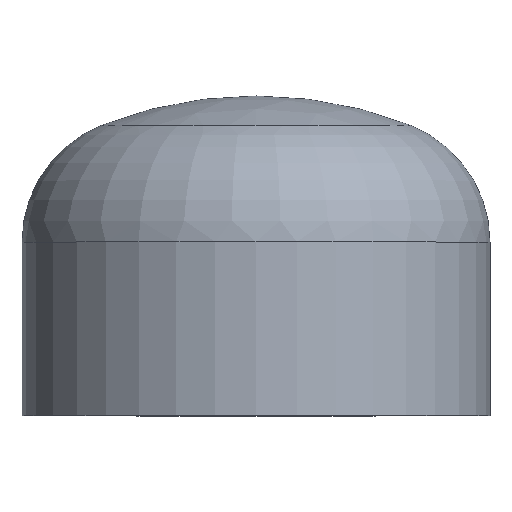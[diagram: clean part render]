
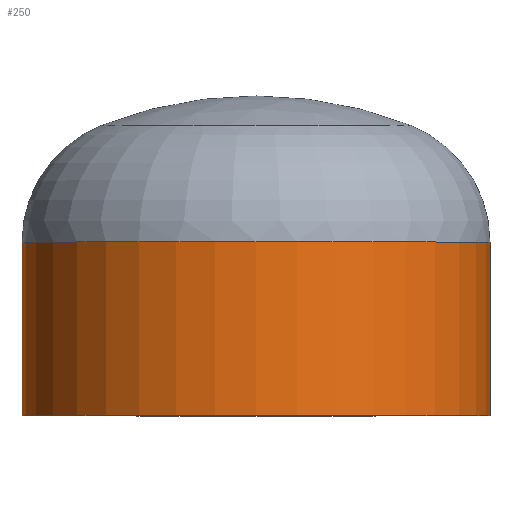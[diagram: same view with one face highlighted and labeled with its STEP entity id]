
A CAD part, top view. The second image highlights one B-rep face of the part: STEP entity #250.
In plain terms, the highlighted cylindrical face has radius 161.95 mm (diameter 323.9 mm), a partial arc.
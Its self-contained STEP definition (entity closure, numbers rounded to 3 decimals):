
#1 = EDGE_LOOP ( 'NONE', ( #37, #35, #142, #144 ) ) ;
#8 = AXIS2_PLACEMENT_3D ( 'NONE', #400, #43, #58 ) ;
#24 = VERTEX_POINT ( 'NONE', #279 ) ;
#35 = ORIENTED_EDGE ( 'NONE', *, *, #342, .T. ) ;
#37 = ORIENTED_EDGE ( 'NONE', *, *, #80, .T. ) ;
#42 = CARTESIAN_POINT ( 'NONE',  ( 161.95, 120., 0. ) ) ;
#43 = DIRECTION ( 'NONE',  ( 0., -1., 0. ) ) ;
#53 = VERTEX_POINT ( 'NONE', #372 ) ;
#58 = DIRECTION ( 'NONE',  ( 1., 0., 0. ) ) ;
#60 = AXIS2_PLACEMENT_3D ( 'NONE', #183, #185, #351 ) ;
#80 = EDGE_CURVE ( 'NONE', #211, #53, #387, .T. ) ;
#101 = VERTEX_POINT ( 'NONE', #291 ) ;
#109 = LINE ( 'NONE', #308, #382 ) ;
#129 = CARTESIAN_POINT ( 'NONE',  ( -161.95, 0., 0. ) ) ;
#131 = CARTESIAN_POINT ( 'NONE',  ( 0., 0., 0. ) ) ;
#142 = ORIENTED_EDGE ( 'NONE', *, *, #340, .F. ) ;
#144 = ORIENTED_EDGE ( 'NONE', *, *, #356, .F. ) ;
#151 = CIRCLE ( 'NONE', #270, 161.95 ) ;
#167 = FACE_OUTER_BOUND ( 'NONE', #1, .T. ) ;
#170 = DIRECTION ( 'NONE',  ( 0., -1., 0. ) ) ;
#183 = CARTESIAN_POINT ( 'NONE',  ( 0., 120., 0. ) ) ;
#185 = DIRECTION ( 'NONE',  ( 0., -1., 0. ) ) ;
#195 = DIRECTION ( 'NONE',  ( 1., 0., 0. ) ) ;
#208 = LINE ( 'NONE', #129, #324 ) ;
#211 = VERTEX_POINT ( 'NONE', #42 ) ;
#250 = ADVANCED_FACE ( 'NONE', ( #167 ), #348, .T. ) ;
#270 = AXIS2_PLACEMENT_3D ( 'NONE', #131, #388, #195 ) ;
#279 = CARTESIAN_POINT ( 'NONE',  ( -161.95, 0., 0. ) ) ;
#281 = DIRECTION ( 'NONE',  ( 0., -1., 0. ) ) ;
#291 = CARTESIAN_POINT ( 'NONE',  ( 161.95, 0., 0. ) ) ;
#308 = CARTESIAN_POINT ( 'NONE',  ( 161.95, 0., 0. ) ) ;
#324 = VECTOR ( 'NONE', #281, 1000. ) ;
#340 = EDGE_CURVE ( 'NONE', #101, #24, #151, .T. ) ;
#342 = EDGE_CURVE ( 'NONE', #53, #24, #208, .T. ) ;
#348 = CYLINDRICAL_SURFACE ( 'NONE', #8, 161.95 ) ;
#351 = DIRECTION ( 'NONE',  ( 1., 0., 0. ) ) ;
#356 = EDGE_CURVE ( 'NONE', #211, #101, #109, .T. ) ;
#372 = CARTESIAN_POINT ( 'NONE',  ( -161.95, 120., 0. ) ) ;
#382 = VECTOR ( 'NONE', #170, 1000. ) ;
#387 = CIRCLE ( 'NONE', #60, 161.95 ) ;
#388 = DIRECTION ( 'NONE',  ( 0., -1., 0. ) ) ;
#400 = CARTESIAN_POINT ( 'NONE',  ( 0., 0., 0. ) ) ;
